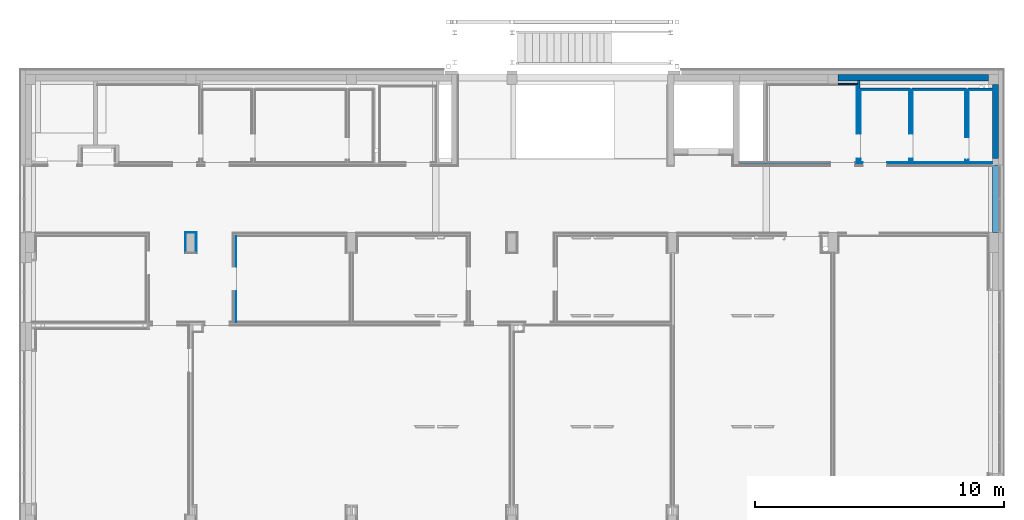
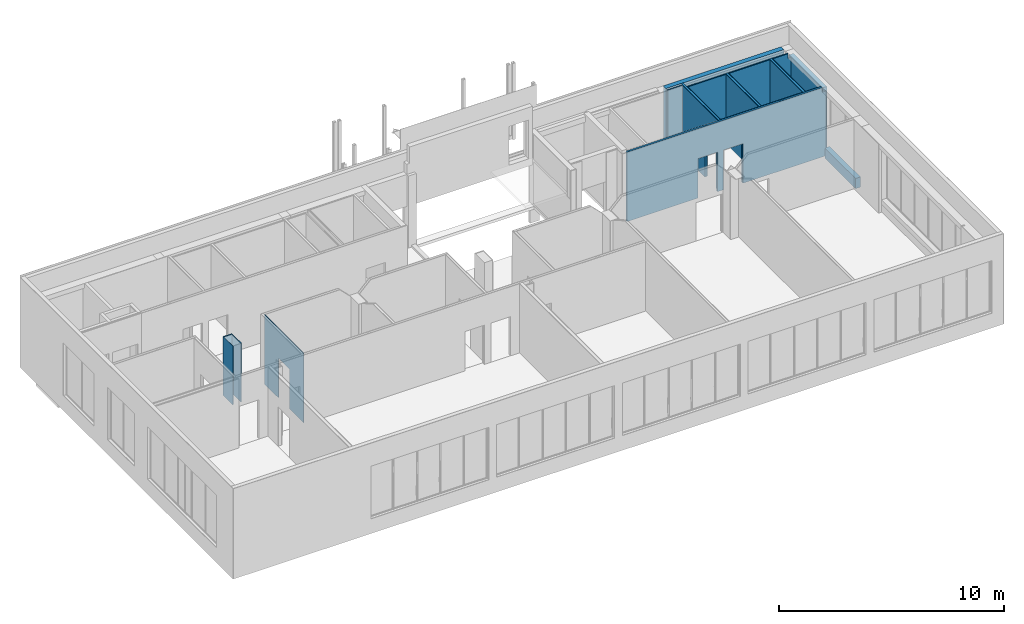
# One storey, part 26 of 29: 27 walls, 12 openings.
"""IFC2X3 building model written with IfcOpenShell, lengths in centimetres."""

from ifc_helpers import new_model, entity, si_unit, converted_unit, derived_unit, direction, frame, frame_2d, origin, origin_2d_with_axis, place, context, subcontext, project, spatial, polyline, rectangle, extrude, clip, bounded_halfspace, faceted_brep, material, layer, layer_set, layer_usage, type_object, element, save


model = new_model("IFC2X3")

# Units and contexts
model_context = context("Model", 3, precision=0.001, world=origin(), true_north=direction((6.12303176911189e-17, 1.0)))
body_context = subcontext(model_context, "Body", "Model", "MODEL_VIEW")
ifc_project = project(units=[si_unit("LENGTHUNIT", "METRE", prefix="CENTI"), si_unit("AREAUNIT", "SQUARE_METRE"), si_unit("VOLUMEUNIT", "CUBIC_METRE"), converted_unit("PLANEANGLEUNIT", "DEGREE", entity("IfcRatioMeasure", 0.0174532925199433), si_unit("PLANEANGLEUNIT", "RADIAN"), dimensions=[0, 0, 0, 0, 0, 0, 0]), si_unit("MASSUNIT", "GRAM", prefix="KILO"), derived_unit("MASSDENSITYUNIT", [(si_unit("MASSUNIT", "GRAM", prefix="KILO"), 1), (si_unit("LENGTHUNIT", "METRE"), -3)]), derived_unit("MOMENTOFINERTIAUNIT", [(si_unit("LENGTHUNIT", "METRE"), 4)]), si_unit("TIMEUNIT", "SECOND"), si_unit("FREQUENCYUNIT", "HERTZ"), si_unit("THERMODYNAMICTEMPERATUREUNIT", "DEGREE_CELSIUS"), derived_unit("THERMALTRANSMITTANCEUNIT", [(si_unit("MASSUNIT", "GRAM", prefix="KILO"), 1), (si_unit("THERMODYNAMICTEMPERATUREUNIT", "KELVIN"), -1), (si_unit("TIMEUNIT", "SECOND"), -3)]), derived_unit("VOLUMETRICFLOWRATEUNIT", [(si_unit("LENGTHUNIT", "METRE"), 3), (si_unit("TIMEUNIT", "SECOND"), -1)]), si_unit("ELECTRICCURRENTUNIT", "AMPERE"), si_unit("ELECTRICVOLTAGEUNIT", "VOLT"), si_unit("POWERUNIT", "WATT"), si_unit("FORCEUNIT", "NEWTON", prefix="KILO"), si_unit("ILLUMINANCEUNIT", "LUX"), si_unit("LUMINOUSFLUXUNIT", "LUMEN"), si_unit("LUMINOUSINTENSITYUNIT", "CANDELA"), derived_unit("USERDEFINED", [(si_unit("MASSUNIT", "GRAM", prefix="KILO"), -1), (si_unit("LENGTHUNIT", "METRE"), -2), (si_unit("TIMEUNIT", "SECOND"), 3), (si_unit("LUMINOUSFLUXUNIT", "LUMEN"), 1)]), derived_unit("LINEARVELOCITYUNIT", [(si_unit("LENGTHUNIT", "METRE"), 1), (si_unit("TIMEUNIT", "SECOND"), -1)]), si_unit("PRESSUREUNIT", "PASCAL"), derived_unit("USERDEFINED", [(si_unit("LENGTHUNIT", "METRE"), -2), (si_unit("MASSUNIT", "GRAM", prefix="KILO"), 1), (si_unit("TIMEUNIT", "SECOND"), -2)]), derived_unit("LINEARFORCEUNIT", [(si_unit("MASSUNIT", "GRAM", prefix="KILO"), 1), (si_unit("LENGTHUNIT", "METRE"), 1), (si_unit("TIMEUNIT", "SECOND"), -2), (si_unit("LENGTHUNIT", "METRE"), -1)]), derived_unit("PLANARFORCEUNIT", [(si_unit("MASSUNIT", "GRAM", prefix="KILO"), 1), (si_unit("LENGTHUNIT", "METRE"), 1), (si_unit("TIMEUNIT", "SECOND"), -2), (si_unit("LENGTHUNIT", "METRE"), -2)])], contexts=[model_context])

# Site, building, storey
site_placement = place(None, origin())
site = spatial("IfcSite", under=ifc_project, at=site_placement, Name="Default", CompositionType="ELEMENT")
building_placement = place(site_placement, origin())
building = spatial("IfcBuilding", under=site, at=building_placement, CompositionType="ELEMENT")
storey_placement = place(building_placement, frame((0.0, 0.0, 545.0)))
storey = spatial("IfcBuildingStorey", under=building, at=storey_placement, Name="Poziom 1K +5,45", CompositionType="ELEMENT", Elevation=544.999999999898)

# Walls
ifc_material_1 = material(Name="_Beton C30/37")
ifc_layer_1 = layer(ifc_material_1, 25.0)
ifc_layer_set_1 = layer_set([ifc_layer_1], Name="Ściana podstawowa:Ściana żelbetowa gr. 25cm")
ifc_layer_usage_1 = layer_usage(ifc_layer_set_1, "AXIS2", "POSITIVE", -12.5)
wall_type_1 = type_object("IfcWallType", Name="Ściana podstawowa:Ściana żelbetowa gr. 25cm", PredefinedType="STANDARD", material=ifc_layer_set_1)
wall_1_placement = place(storey_placement, frame((330.734891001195, 2092.62745061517, 0.0)))
element("IfcWallStandardCase", 1, at=wall_1_placement, inside=storey, type_object=wall_type_1, material=ifc_layer_usage_1, Name="Ściana podstawowa:Ściana żelbetowa gr. 25cm", ObjectType="Ściana podstawowa:Ściana żelbetowa gr. 25cm", context=body_context, shape_type="SweptSolid", body=[
    extrude(rectangle(XDim=605.000000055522, YDim=25.0000000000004, at=frame_2d((302.500000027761, 7.105427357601e-14), x_axis=(-1.0, 0.0))), origin(), (0.0, 0.0, 1.0), 390.000000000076),
])
ifc_material_2 = material(Name="Pustak ceramiczny, klasa 15")
ifc_layer_2 = layer(ifc_material_2, 25.0)
ifc_layer_set_2 = layer_set([ifc_layer_2], Name="Ściana podstawowa:Ściana murowana gr. 25cm")
ifc_layer_usage_2 = layer_usage(ifc_layer_set_2, "AXIS2", "POSITIVE", -12.5)
wall_type_2 = type_object("IfcWallType", Name="Ściana podstawowa:Ściana murowana gr. 25cm", PredefinedType="STANDARD", material=ifc_layer_set_2)
wall_2_placement = place(storey_placement, frame((963.234879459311, 2065.1274520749, 0.0), z_axis=(0.0, 0.0, 1.0), x_axis=(0.0, -1.0, 0.0)))
element("IfcWallStandardCase", 2, at=wall_2_placement, inside=storey, type_object=wall_type_2, material=ifc_layer_usage_2, Name="Ściana podstawowa:Ściana murowana gr. 25cm", ObjectType="Ściana podstawowa:Ściana murowana gr. 25cm", context=body_context, shape_type="SweptSolid", body=[
    extrude(rectangle(XDim=297.000000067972, YDim=24.9999999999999, at=frame_2d((148.500000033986, 0.0), x_axis=(-1.0, 0.0))), origin(), (0.0, 0.0, 1.0), 365.000000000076),
])
ifc_layer_usage_3 = layer_usage(ifc_layer_set_2, "AXIS2", "NEGATIVE", 12.5)
wall_3_placement = place(storey_placement, frame((963.234883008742, 1470.12745208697, 0.0), z_axis=(0.0, 0.0, 1.0), x_axis=(0.0, 1.0, 0.0)))
element("IfcWallStandardCase", 3, at=wall_3_placement, inside=storey, type_object=wall_type_2, material=ifc_layer_usage_3, Name="Ściana podstawowa:Ściana murowana gr. 25cm", ObjectType="Ściana podstawowa:Ściana murowana gr. 25cm", context=body_context, shape_type="SweptSolid", body=[
    extrude(rectangle(XDim=272.999999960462, YDim=24.9999999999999, at=frame_2d((136.499999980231, 0.0), x_axis=(-1.0, 0.0))), origin(), (0.0, 0.0, 1.0), 55.0000000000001),
])

# Wall, openings
ifc_material_3 = material(Name="Wełna skalna")
ifc_layer_3 = layer(ifc_material_3, 10.0)
ifc_layer_set_3 = layer_set([ifc_layer_3], Name="Ściana podstawowa:Ściana GK rdzeń gr. 10cm")
ifc_layer_usage_4 = layer_usage(ifc_layer_set_3, "AXIS2", "NEGATIVE", 5.0)
wall_type_3 = type_object("IfcWallType", Name="Ściana podstawowa:Ściana GK rdzeń gr. 10cm", PredefinedType="STANDARD", material=ifc_layer_set_3)
wall_4_placement = place(storey_placement, frame((-65.7649889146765, 1745.62745198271, 13.0)))
wall_4 = element("IfcWallStandardCase", 4, at=wall_4_placement, inside=storey, type_object=wall_type_3, material=ifc_layer_usage_4, Name="Ściana podstawowa:Ściana GK rdzeń gr. 10cm", ObjectType="Ściana podstawowa:Ściana GK rdzeń gr. 10cm", context=body_context, shape_type="Clipping", body=[
    clip(clip(clip(clip(extrude(rectangle(XDim=1021.49987997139, YDim=9.99999999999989, at=frame_2d((510.749939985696, 7.99360577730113e-15), x_axis=(-1.0, 0.0))), origin(), (0.0, 0.0, 1.0), 377.000000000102), bounded_halfspace(frame((1016.49986837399, -2.49999997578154, 0.0), z_axis=(-1.0, 0.0, 0.0), x_axis=(0.0, 0.0, -1.0)), True, frame((1016.49986837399, -2.49999997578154, 0.0), z_axis=(-1.0, 0.0, 0.0), x_axis=(0.0, 0.0, -1.0)), polyline([(0.0, 0.0), (-352.0, 0.0), (-352.0, -7.49999997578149), (0.0, -7.49999997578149), (0.0, 0.0)]))), bounded_halfspace(frame((1021.49987997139, -2.49999997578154, 0.0), z_axis=(0.0, -1.0, 0.0), x_axis=(0.0, 0.0, -1.0)), True, frame((1021.49987997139, -2.49999997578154, 0.0), z_axis=(0.0, -1.0, 0.0), x_axis=(0.0, 0.0, -1.0)), polyline([(0.0, 0.0), (-352.0, 0.0), (-352.0, -5.00001159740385), (0.0, -5.00001159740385), (0.0, 0.0)]))), bounded_halfspace(frame((1001.49987997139, 5.0, 352.0), z_axis=(0.0, 0.0, -1.0), x_axis=(0.0, -1.0, 0.0)), True, frame((1001.49987997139, 5.0, 352.0), z_axis=(0.0, 0.0, -1.0), x_axis=(0.0, -1.0, 0.0)), polyline([(0.0, 0.0), (0.0, -14.9999884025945), (7.49999997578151, -14.9999884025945), (7.49999997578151, -20.0), (10.0, -20.0), (10.0, 0.0), (0.0, 0.0)]))), bounded_halfspace(frame((1001.49987997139, -5.0, 352.0), z_axis=(-1.0, 0.0, 0.0), x_axis=(0.0, -1.0, 0.0)), True, frame((1001.49987997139, -5.0, 352.0), z_axis=(-1.0, 0.0, 0.0), x_axis=(0.0, -1.0, 0.0)), polyline([(0.0, 0.0), (0.0, 25.0), (-10.0, 25.0), (-10.0, 0.0), (0.0, 0.0)]))),
])
opening_1_placement = place(wall_4_placement, origin())
element("IfcOpeningElement", 5, at=opening_1_placement, cuts=wall_4, Name="Ściana podstawowa:Ściana GK rdzeń gr. 10cm", ObjectType="Opening", context=body_context, shape_type="SweptSolid", body=[
    extrude(rectangle(XDim=215.0, YDim=99.9999999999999, at=frame_2d((0.0, 2.8421709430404e-14), x_axis=(1.0, 0.0))), frame((414.999868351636, -147.4, 107.5), z_axis=(0.0, 1.0, 0.0), x_axis=(0.0, 0.0, -1.0)), (0.0, 0.0, 1.0), 304.8),
])
opening_2_placement = place(wall_4_placement, origin())
element("IfcOpeningElement", 6, at=opening_2_placement, cuts=wall_4, Name="Ściana podstawowa:Ściana GK rdzeń gr. 10cm", ObjectType="Opening", context=body_context, shape_type="SweptSolid", body=[
    extrude(rectangle(XDim=215.0, YDim=99.9999999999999, at=frame_2d((0.0, 8.17124146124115e-14), x_axis=(1.0, 0.0))), frame((544.999868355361, -147.4, 107.5), z_axis=(0.0, 1.0, 0.0), x_axis=(0.0, 0.0, -1.0)), (0.0, 0.0, 1.0), 304.8),
])

# Wall, opening
ifc_layer_usage_5 = layer_usage(ifc_layer_set_3, "AXIS2", "POSITIVE", -5.0)
wall_5_placement = place(storey_placement, frame((849.234879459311, 1750.62745198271, 13.0), z_axis=(0.0, 0.0, 1.0), x_axis=(0.0, 1.0, 0.0)))
wall_5 = element("IfcWallStandardCase", 7, at=wall_5_placement, inside=storey, type_object=wall_type_3, material=ifc_layer_usage_5, Name="Ściana podstawowa:Ściana GK rdzeń gr. 10cm", ObjectType="Ściana podstawowa:Ściana GK rdzeń gr. 10cm", context=body_context, shape_type="SweptSolid", body=[
    extrude(rectangle(XDim=299.500000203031, YDim=9.99999999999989, at=frame_2d((149.750000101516, 0.0), x_axis=(-1.0, 0.0))), origin(), (0.0, 0.0, 1.0), 377.000000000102),
])
opening_3_placement = place(wall_5_placement, origin())
element("IfcOpeningElement", 8, at=opening_3_placement, cuts=wall_5, Name="Ściana podstawowa:Ściana GK rdzeń gr. 10cm", ObjectType="Opening", context=body_context, shape_type="SweptSolid", body=[
    extrude(rectangle(XDim=215.0, YDim=89.9999999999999, at=origin_2d_with_axis()), frame((57.5000001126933, -147.4, 107.5), z_axis=(0.0, 1.0, 0.0), x_axis=(0.0, 0.0, -1.0)), (0.0, 0.0, 1.0), 304.8),
])

ifc_layer_usage_6 = layer_usage(ifc_layer_set_3, "AXIS2", "NEGATIVE", 5.0)
wall_6_placement = place(storey_placement, frame((624.234879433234, 1750.62745198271, 13.0), z_axis=(0.0, 0.0, 1.0), x_axis=(0.0, 1.0, 0.0)))
wall_6 = element("IfcWallStandardCase", 9, at=wall_6_placement, inside=storey, type_object=wall_type_3, material=ifc_layer_usage_6, Name="Ściana podstawowa:Ściana GK rdzeń gr. 10cm", ObjectType="Ściana podstawowa:Ściana GK rdzeń gr. 10cm", context=body_context, shape_type="SweptSolid", body=[
    extrude(rectangle(XDim=299.500000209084, YDim=9.99999999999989, at=frame_2d((149.750000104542, 0.0), x_axis=(-1.0, 0.0))), origin(), (0.0, 0.0, 1.0), 377.000000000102),
])
opening_4_placement = place(wall_6_placement, origin())
element("IfcOpeningElement", 10, at=opening_4_placement, cuts=wall_6, Name="Ściana podstawowa:Ściana GK rdzeń gr. 10cm", ObjectType="Opening", context=body_context, shape_type="SweptSolid", body=[
    extrude(rectangle(XDim=215.0, YDim=100.0, at=frame_2d((1.10134124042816e-13, 0.0), x_axis=(0.0, 1.0))), frame((67.5000000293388, -157.4, 107.5), z_axis=(0.0, 1.0, 0.0), x_axis=(1.0, 0.0, 0.0)), (0.0, 0.0, 1.0), 304.8),
])

ifc_layer_usage_7 = layer_usage(ifc_layer_set_3, "AXIS2", "POSITIVE", -5.0)
wall_7_placement = place(storey_placement, frame((414.234879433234, 2081.127452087, 13.0), z_axis=(0.0, 0.0, 1.0), x_axis=(0.0, -1.0, 0.0)))
wall_7 = element("IfcWallStandardCase", 11, at=wall_7_placement, inside=storey, type_object=wall_type_3, material=ifc_layer_usage_7, Name="Ściana podstawowa:Ściana GK rdzeń gr. 10cm", ObjectType="Ściana podstawowa:Ściana GK rdzeń gr. 10cm", context=body_context, shape_type="SweptSolid", body=[
    extrude(rectangle(XDim=330.500000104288, YDim=10.0, at=frame_2d((165.250000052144, 0.0), x_axis=(-1.0, 0.0))), origin(), (0.0, 0.0, 1.0), 377.000000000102),
])
opening_5_placement = place(wall_7_placement, origin())
element("IfcOpeningElement", 12, at=opening_5_placement, cuts=wall_7, Name="Ściana podstawowa:Ściana GK rdzeń gr. 10cm", ObjectType="Opening", context=body_context, shape_type="SweptSolid", body=[
    extrude(rectangle(XDim=215.0, YDim=100.0, at=frame_2d((0.0, 1.10134124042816e-13), x_axis=(1.0, 0.0))), frame((263.0, -147.4, 107.5), z_axis=(0.0, 1.0, 0.0), x_axis=(0.0, 0.0, -1.0)), (0.0, 0.0, 1.0), 304.8),
])

# Walls
ifc_layer_4 = layer(ifc_material_3, 5.0)
ifc_layer_set_4 = layer_set([ifc_layer_4], Name="Ściana podstawowa:Ściana GK rdzeń gr. 5cm")
ifc_layer_usage_8 = layer_usage(ifc_layer_set_4, "AXIS2", "NEGATIVE", 2.5)
wall_type_4 = type_object("IfcWallType", Name="Ściana podstawowa:Ściana GK rdzeń gr. 5cm", PredefinedType="STANDARD", material=ifc_layer_set_4)
wall_8_placement = place(storey_placement, frame((419.234879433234, 2047.6274521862, 13.0)))
element("IfcWallStandardCase", 13, at=wall_8_placement, inside=storey, type_object=wall_type_4, material=ifc_layer_usage_8, Name="Ściana podstawowa:Ściana GK rdzeń gr. 5cm", ObjectType="Ściana podstawowa:Ściana GK rdzeń gr. 5cm", context=body_context, shape_type="SweptSolid", body=[
    extrude(rectangle(XDim=200.000000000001, YDim=4.99999999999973, at=frame_2d((100.0, 5.55111512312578e-15), x_axis=(-1.0, 0.0))), origin(), (0.0, 0.0, 1.0), 377.000000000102),
])
ifc_layer_usage_9 = layer_usage(ifc_layer_set_4, "AXIS2", "NEGATIVE", 2.5)
wall_9_placement = place(storey_placement, frame((629.234879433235, 2047.62745219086, 13.0)))
element("IfcWallStandardCase", 14, at=wall_9_placement, inside=storey, type_object=wall_type_4, material=ifc_layer_usage_9, Name="Ściana podstawowa:Ściana GK rdzeń gr. 5cm", ObjectType="Ściana podstawowa:Ściana GK rdzeń gr. 5cm", context=body_context, shape_type="SweptSolid", body=[
    extrude(rectangle(XDim=215.000000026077, YDim=4.99999999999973, at=frame_2d((107.500000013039, 1.04360964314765e-14), x_axis=(-1.0, 0.0))), origin(), (0.0, 0.0, 1.0), 377.000000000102),
])
ifc_layer_usage_10 = layer_usage(ifc_layer_set_4, "AXIS2", "NEGATIVE", 2.5)
wall_10_placement = place(storey_placement, frame((854.234879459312, 2047.62745218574, 13.0)))
element("IfcWallStandardCase", 15, at=wall_10_placement, inside=storey, type_object=wall_type_4, material=ifc_layer_usage_10, Name="Ściana podstawowa:Ściana GK rdzeń gr. 5cm", ObjectType="Ściana podstawowa:Ściana GK rdzeń gr. 5cm", context=body_context, shape_type="Clipping", body=[
    clip(clip(extrude(rectangle(XDim=96.4999999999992, YDim=4.99999999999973, at=frame_2d((48.2499999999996, -5.32907051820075e-15), x_axis=(-1.0, 0.0))), origin(), (0.0, 0.0, 1.0), 377.000000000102), bounded_halfspace(frame((81.5000115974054, 2.49999999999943, 352.0), z_axis=(0.0, 0.0, -1.0), x_axis=(0.0, -1.0, 0.0)), True, frame((81.5000115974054, 2.49999999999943, 352.0), z_axis=(0.0, 0.0, -1.0), x_axis=(0.0, -1.0, 0.0)), polyline([(0.0, 0.0), (0.0, -14.9999884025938), (5.0, -14.9999884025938), (5.0, 0.0), (0.0, 0.0)]))), bounded_halfspace(frame((81.5000115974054, -2.50000000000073, 352.0), z_axis=(-1.0, 0.0, 0.0), x_axis=(0.0, -1.0, 0.0)), True, frame((81.5000115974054, -2.50000000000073, 352.0), z_axis=(-1.0, 0.0, 0.0), x_axis=(0.0, -1.0, 0.0)), polyline([(0.0, 0.0), (0.0, 25.0), (-5.0, 25.0), (-5.0, 0.0), (0.0, 0.0)]))),
])
ifc_layer_usage_11 = layer_usage(ifc_layer_set_4, "AXIS2", "NEGATIVE", 2.5)
wall_11_placement = place(storey_placement, frame((330.734891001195, 2067.6274520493, 13.0)))
element("IfcWallStandardCase", 16, at=wall_11_placement, inside=storey, type_object=wall_type_4, material=ifc_layer_usage_11, Name="Ściana podstawowa:Ściana GK rdzeń gr. 5cm", ObjectType="Ściana podstawowa:Ściana GK rdzeń gr. 5cm", context=body_context, shape_type="SweptSolid", body=[
    extrude(rectangle(XDim=78.4999884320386, YDim=4.99999999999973, at=frame_2d((39.2499942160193, 0.0), x_axis=(-1.0, 0.0))), origin(), (0.0, 0.0, 1.0), 377.000000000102),
])

# Wall, opening
ifc_material_4 = material(Name="Tynk gipsowy")
ifc_layer_5 = layer(ifc_material_4, 2.5)
ifc_layer_set_5 = layer_set([ifc_layer_5], Name="Ściana podstawowa:Ściana GK wykonczenie gr. 2,5cm")
ifc_layer_usage_12 = layer_usage(ifc_layer_set_5, "AXIS2", "NEGATIVE", 1.25)
wall_type_5 = type_object("IfcWallType", Name="Ściana podstawowa:Ściana GK wykonczenie gr. 2,5cm", PredefinedType="STANDARD", material=ifc_layer_set_5)
wall_12_placement = place(storey_placement, frame((407.984879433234, 2065.1274520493, 13.0), z_axis=(0.0, 0.0, 1.0), x_axis=(0.0, -1.0, 0.0)))
wall_12 = element("IfcWallStandardCase", 17, at=wall_12_placement, inside=storey, type_object=wall_type_5, material=ifc_layer_usage_12, Name="Ściana podstawowa:Ściana GK wykonczenie gr. 2,5cm", ObjectType="Ściana podstawowa:Ściana GK wykonczenie gr. 2,5cm", context=body_context, shape_type="SweptSolid", body=[
    extrude(rectangle(XDim=314.50000006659, YDim=2.49999999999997, at=frame_2d((157.250000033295, 0.0), x_axis=(-1.0, 0.0))), origin(), (0.0, 0.0, 1.0), 377.000000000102),
])
opening_6_placement = place(wall_12_placement, origin())
element("IfcOpeningElement", 18, at=opening_6_placement, cuts=wall_12, Name="Ściana podstawowa:Ściana GK wykonczenie gr. 2,5cm", ObjectType="Opening", context=body_context, shape_type="SweptSolid", body=[
    extrude(rectangle(XDim=215.0, YDim=100.0, at=frame_2d((0.0, 1.10134124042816e-13), x_axis=(1.0, 0.0))), frame((247.0, -141.15, 107.5), z_axis=(0.0, 1.0, 0.0), x_axis=(0.0, 0.0, -1.0)), (0.0, 0.0, 1.0), 304.8),
])

ifc_layer_usage_13 = layer_usage(ifc_layer_set_5, "AXIS2", "NEGATIVE", 1.25)
wall_13_placement = place(storey_placement, frame((420.484879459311, 2042.62745219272, 13.0), z_axis=(0.0, 0.0, 1.0), x_axis=(0.0, -1.0, 0.0)))
wall_13 = element("IfcWallStandardCase", 19, at=wall_13_placement, inside=storey, type_object=wall_type_5, material=ifc_layer_usage_13, Name="Ściana podstawowa:Ściana GK wykonczenie gr. 2,5cm", ObjectType="Ściana podstawowa:Ściana GK wykonczenie gr. 2,5cm", context=body_context, shape_type="SweptSolid", body=[
    extrude(rectangle(XDim=289.500000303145, YDim=2.49999999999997, at=frame_2d((144.750000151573, 1.11022302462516e-16), x_axis=(-1.0, 0.0))), origin(), (0.0, 0.0, 1.0), 377.000000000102),
])
opening_7_placement = place(wall_13_placement, origin())
element("IfcOpeningElement", 20, at=opening_7_placement, cuts=wall_13, Name="Ściana podstawowa:Ściana GK wykonczenie gr. 2,5cm", ObjectType="Opening", context=body_context, shape_type="SweptSolid", body=[
    extrude(rectangle(XDim=215.0, YDim=100.0, at=frame_2d((0.0, 1.10134124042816e-13), x_axis=(1.0, 0.0))), frame((224.500000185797, -153.650000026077, 107.5), z_axis=(0.0, 1.0, 0.0), x_axis=(0.0, 0.0, -1.0)), (0.0, 0.0, 1.0), 304.8),
])

ifc_layer_usage_14 = layer_usage(ifc_layer_set_5, "AXIS2", "NEGATIVE", 1.25)
wall_14_placement = place(storey_placement, frame((419.234879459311, 1751.87745188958, 13.0)))
wall_14 = element("IfcWallStandardCase", 21, at=wall_14_placement, inside=storey, type_object=wall_type_5, material=ifc_layer_usage_14, Name="Ściana podstawowa:Ściana GK wykonczenie gr. 2,5cm", ObjectType="Ściana podstawowa:Ściana GK wykonczenie gr. 2,5cm", context=body_context, shape_type="SweptSolid", body=[
    extrude(rectangle(XDim=197.499999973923, YDim=2.49999999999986, at=frame_2d((98.7499999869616, 0.0), x_axis=(-1.0, 0.0))), origin(), (0.0, 0.0, 1.0), 377.000000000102),
])
opening_8_placement = place(wall_14_placement, origin())
element("IfcOpeningElement", 22, at=opening_8_placement, cuts=wall_14, Name="Ściana podstawowa:Ściana GK wykonczenie gr. 2,5cm", ObjectType="Opening", context=body_context, shape_type="SweptSolid", body=[
    extrude(rectangle(XDim=215.0, YDim=99.9999999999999, at=frame_2d((0.0, 8.17124146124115e-14), x_axis=(1.0, 0.0))), frame((60.0, -153.649999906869, 107.5), z_axis=(0.0, 1.0, 0.0), x_axis=(0.0, 0.0, -1.0)), (0.0, 0.0, 1.0), 304.8),
])

ifc_layer_usage_15 = layer_usage(ifc_layer_set_5, "AXIS2", "NEGATIVE", 1.25)
wall_15_placement = place(storey_placement, frame((617.984879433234, 1753.12745188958, 13.0), z_axis=(0.0, 0.0, 1.0), x_axis=(0.0, 1.0, 0.0)))
wall_15 = element("IfcWallStandardCase", 23, at=wall_15_placement, inside=storey, type_object=wall_type_5, material=ifc_layer_usage_15, Name="Ściana podstawowa:Ściana GK wykonczenie gr. 2,5cm", ObjectType="Ściana podstawowa:Ściana GK wykonczenie gr. 2,5cm", context=body_context, shape_type="SweptSolid", body=[
    extrude(rectangle(XDim=292.000000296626, YDim=2.50000000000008, at=frame_2d((146.000000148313, 0.0), x_axis=(-1.0, 0.0))), origin(), (0.0, 0.0, 1.0), 377.000000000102),
])
opening_9_placement = place(wall_15_placement, origin())
element("IfcOpeningElement", 24, at=opening_9_placement, cuts=wall_15, Name="Ściana podstawowa:Ściana GK wykonczenie gr. 2,5cm", ObjectType="Opening", context=body_context, shape_type="SweptSolid", body=[
    extrude(rectangle(XDim=215.0, YDim=100.0, at=frame_2d((1.10134124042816e-13, 0.0), x_axis=(0.0, 1.0))), frame((65.0, -163.65, 107.5), z_axis=(0.0, 1.0, 0.0), x_axis=(1.0, 0.0, 0.0)), (0.0, 0.0, 1.0), 304.8),
])

# Wall
ifc_layer_usage_16 = layer_usage(ifc_layer_set_5, "AXIS2", "NEGATIVE", 1.25)
wall_16_placement = place(storey_placement, frame((616.734879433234, 2043.87745219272, 13.0), z_axis=(0.0, 0.0, 1.0), x_axis=(-1.0, 0.0, 0.0)))
element("IfcWallStandardCase", 25, at=wall_16_placement, inside=storey, type_object=wall_type_5, material=ifc_layer_usage_16, Name="Ściana podstawowa:Ściana GK wykonczenie gr. 2,5cm", ObjectType="Ściana podstawowa:Ściana GK wykonczenie gr. 2,5cm", context=body_context, shape_type="SweptSolid", body=[
    extrude(rectangle(XDim=197.500000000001, YDim=2.5000000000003, at=frame_2d((98.7500000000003, 0.0), x_axis=(-1.0, 0.0))), origin(), (0.0, 0.0, 1.0), 377.000000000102),
])

# Wall, opening
ifc_layer_usage_17 = layer_usage(ifc_layer_set_5, "AXIS2", "NEGATIVE", 1.25)
wall_17_placement = place(storey_placement, frame((630.484879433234, 1750.62745198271, 13.0), z_axis=(0.0, 0.0, 1.0), x_axis=(0.0, 1.0, 0.0)))
wall_17 = element("IfcWallStandardCase", 26, at=wall_17_placement, inside=storey, type_object=wall_type_5, material=ifc_layer_usage_17, Name="Ściana podstawowa:Ściana GK wykonczenie gr. 2,5cm", ObjectType="Ściana podstawowa:Ściana GK wykonczenie gr. 2,5cm", context=body_context, shape_type="SweptSolid", body=[
    extrude(rectangle(XDim=294.500000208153, YDim=2.50000000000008, at=frame_2d((147.250000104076, 0.0), x_axis=(-1.0, 0.0))), origin(), (0.0, 0.0, 1.0), 377.000000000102),
])
opening_10_placement = place(wall_17_placement, origin())
element("IfcOpeningElement", 27, at=opening_10_placement, cuts=wall_17, Name="Ściana podstawowa:Ściana GK wykonczenie gr. 2,5cm", ObjectType="Opening", context=body_context, shape_type="SweptSolid", body=[
    extrude(rectangle(XDim=215.0, YDim=100.0, at=frame_2d((1.10134124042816e-13, 0.0), x_axis=(0.0, 1.0))), frame((67.5000000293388, -151.15, 107.5), z_axis=(0.0, 1.0, 0.0), x_axis=(1.0, 0.0, 0.0)), (0.0, 0.0, 1.0), 304.8),
])

# Wall
ifc_layer_usage_18 = layer_usage(ifc_layer_set_5, "AXIS2", "NEGATIVE", 1.25)
wall_18_placement = place(storey_placement, frame((629.234879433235, 2043.87745219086, 13.0)))
element("IfcWallStandardCase", 28, at=wall_18_placement, inside=storey, type_object=wall_type_5, material=ifc_layer_usage_18, Name="Ściana podstawowa:Ściana GK wykonczenie gr. 2,5cm", ObjectType="Ściana podstawowa:Ściana GK wykonczenie gr. 2,5cm", context=body_context, shape_type="SweptSolid", body=[
    extrude(rectangle(XDim=215.000000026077, YDim=2.5000000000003, at=frame_2d((107.500000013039, 0.0), x_axis=(-1.0, 0.0))), origin(), (0.0, 0.0, 1.0), 377.000000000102),
])

# Wall, opening
ifc_layer_usage_19 = layer_usage(ifc_layer_set_5, "AXIS2", "NEGATIVE", 1.25)
wall_19_placement = place(storey_placement, frame((842.984879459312, 2042.62745219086, 13.0), z_axis=(0.0, 0.0, 1.0), x_axis=(0.0, -1.0, 0.0)))
wall_19 = element("IfcWallStandardCase", 29, at=wall_19_placement, inside=storey, type_object=wall_type_5, material=ifc_layer_usage_19, Name="Ściana podstawowa:Ściana GK wykonczenie gr. 2,5cm", ObjectType="Ściana podstawowa:Ściana GK wykonczenie gr. 2,5cm", context=body_context, shape_type="SweptSolid", body=[
    extrude(rectangle(XDim=292.000000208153, YDim=2.50000000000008, at=frame_2d((146.000000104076, -1.77635683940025e-15), x_axis=(-1.0, 0.0))), origin(), (0.0, 0.0, 1.0), 377.000000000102),
])
opening_11_placement = place(wall_19_placement, origin())
element("IfcOpeningElement", 30, at=opening_11_placement, cuts=wall_19, Name="Ściana podstawowa:Ściana GK wykonczenie gr. 2,5cm", ObjectType="Opening", context=body_context, shape_type="SweptSolid", body=[
    extrude(rectangle(XDim=215.0, YDim=89.9999999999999, at=frame_2d((0.0, 0.0), x_axis=(0.0, 1.0))), frame((234.50000009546, -151.15, 107.5), z_axis=(0.0, 1.0, 0.0), x_axis=(1.0, 0.0, 0.0)), (0.0, 0.0, 1.0), 304.8),
])

# Wall
ifc_layer_usage_20 = layer_usage(ifc_layer_set_5, "AXIS2", "NEGATIVE", 1.25)
wall_20_placement = place(storey_placement, frame((841.734879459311, 1751.87745198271, 13.0), z_axis=(0.0, 0.0, 1.0), x_axis=(-1.0, 0.0, 0.0)))
element("IfcWallStandardCase", 31, at=wall_20_placement, inside=storey, type_object=wall_type_5, material=ifc_layer_usage_20, Name="Ściana podstawowa:Ściana GK wykonczenie gr. 2,5cm", ObjectType="Ściana podstawowa:Ściana GK wykonczenie gr. 2,5cm", context=body_context, shape_type="SweptSolid", body=[
    extrude(rectangle(XDim=210.000000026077, YDim=2.49999999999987, at=frame_2d((105.000000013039, -3.77475828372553e-15), x_axis=(-1.0, 0.0))), origin(), (0.0, 0.0, 1.0), 377.000000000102),
])

# Wall, opening
ifc_layer_usage_21 = layer_usage(ifc_layer_set_5, "AXIS2", "NEGATIVE", 1.25)
wall_21_placement = place(storey_placement, frame((855.484879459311, 1750.62745198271, 13.0), z_axis=(0.0, 0.0, 1.0), x_axis=(0.0, 1.0, 0.0)))
wall_21 = element("IfcWallStandardCase", 32, at=wall_21_placement, inside=storey, type_object=wall_type_5, material=ifc_layer_usage_21, Name="Ściana podstawowa:Ściana GK wykonczenie gr. 2,5cm", ObjectType="Ściana podstawowa:Ściana GK wykonczenie gr. 2,5cm", context=body_context, shape_type="SweptSolid", body=[
    extrude(rectangle(XDim=294.500000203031, YDim=2.50000000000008, at=frame_2d((147.250000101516, 0.0), x_axis=(-1.0, 0.0))), origin(), (0.0, 0.0, 1.0), 377.000000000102),
])
opening_12_placement = place(wall_21_placement, origin())
element("IfcOpeningElement", 33, at=opening_12_placement, cuts=wall_21, Name="Ściana podstawowa:Ściana GK wykonczenie gr. 2,5cm", ObjectType="Opening", context=body_context, shape_type="SweptSolid", body=[
    extrude(rectangle(XDim=215.0, YDim=89.9999999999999, at=origin_2d_with_axis()), frame((57.5000001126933, -141.15, 107.5), z_axis=(0.0, 1.0, 0.0), x_axis=(0.0, 0.0, -1.0)), (0.0, 0.0, 1.0), 304.8),
])

# Walls
ifc_layer_usage_22 = layer_usage(ifc_layer_set_5, "AXIS2", "NEGATIVE", 1.25)
wall_22_placement = place(storey_placement, frame((856.734879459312, 2043.87745218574, 13.0)))
element("IfcWallStandardCase", 34, at=wall_22_placement, inside=storey, type_object=wall_type_5, material=ifc_layer_usage_22, Name="Ściana podstawowa:Ściana GK wykonczenie gr. 2,5cm", ObjectType="Ściana podstawowa:Ściana GK wykonczenie gr. 2,5cm", context=body_context, shape_type="Clipping", body=[
    clip(clip(extrude(rectangle(XDim=93.9999999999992, YDim=2.5000000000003, at=frame_2d((46.9999999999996, -5.6621374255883e-15), x_axis=(-1.0, 0.0))), origin(), (0.0, 0.0, 1.0), 377.000000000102), bounded_halfspace(frame((79.0000115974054, 1.25000000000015, 352.0), z_axis=(0.0, 0.0, -1.0), x_axis=(0.0, -1.0, 0.0)), True, frame((79.0000115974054, 1.25000000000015, 352.0), z_axis=(0.0, 0.0, -1.0), x_axis=(0.0, -1.0, 0.0)), polyline([(0.0, 0.0), (0.0, -14.9999884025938), (2.4999999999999, -14.9999884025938), (2.49999999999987, 0.0), (0.0, 0.0)]))), bounded_halfspace(frame((79.0000115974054, -1.24999999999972, 352.0), z_axis=(-1.0, 0.0, 0.0), x_axis=(0.0, -1.0, 0.0)), True, frame((79.0000115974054, -1.24999999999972, 352.0), z_axis=(-1.0, 0.0, 0.0), x_axis=(0.0, -1.0, 0.0)), polyline([(0.0, 0.0), (0.0, 25.0), (-2.49999999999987, 25.0), (-2.49999999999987, 0.0), (0.0, 0.0)]))),
])
ifc_layer_usage_23 = layer_usage(ifc_layer_set_5, "AXIS2", "NEGATIVE", 1.25)
wall_23_placement = place(storey_placement, frame((856.734879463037, 1751.87745209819, 13.0)))
element("IfcWallStandardCase", 35, at=wall_23_placement, inside=storey, type_object=wall_type_5, material=ifc_layer_usage_23, Name="Ściana podstawowa:Ściana GK wykonczenie gr. 2,5cm", ObjectType="Ściana podstawowa:Ściana GK wykonczenie gr. 2,5cm", context=body_context, shape_type="Clipping", body=[
    clip(clip(extrude(rectangle(XDim=93.9999999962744, YDim=2.49999999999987, at=frame_2d((46.9999999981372, -5.44009282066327e-15), x_axis=(-1.0, 0.0))), origin(), (0.0, 0.0, 1.0), 377.000000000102), bounded_halfspace(frame((79.0000115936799, 1.24999999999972, 352.0), z_axis=(0.0, 0.0, -1.0), x_axis=(0.0, -1.0, 0.0)), True, frame((79.0000115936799, 1.24999999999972, 352.0), z_axis=(0.0, 0.0, -1.0), x_axis=(0.0, -1.0, 0.0)), polyline([(0.0, 0.0), (0.0, -14.9999884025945), (2.49999999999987, -14.9999884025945), (2.50000000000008, 0.0), (0.0, 0.0)]))), bounded_halfspace(frame((79.0000115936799, -1.25000000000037, 352.0), z_axis=(-1.0, 0.0, 0.0), x_axis=(0.0, -1.0, 0.0)), True, frame((79.0000115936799, -1.25000000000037, 352.0), z_axis=(-1.0, 0.0, 0.0), x_axis=(0.0, -1.0, 0.0)), polyline([(0.0, 0.0), (0.0, 25.0), (-2.50000000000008, 25.0), (-2.50000000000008, 0.0), (0.0, 0.0)]))),
])
wall_24_placement = place(storey_placement, frame((-2088.0151152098, 1455.12745210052, 13.0), z_axis=(0.0, 0.0, 1.0), x_axis=(0.0, -1.0, 0.0)))
element("IfcWall", 36, at=wall_24_placement, inside=storey, type_object=wall_type_5, Name="Ściana podstawowa:Ściana GK wykonczenie gr. 2,5cm", ObjectType="Ściana podstawowa:Ściana GK wykonczenie gr. 2,5cm", context=body_context, shape_type="Brep", body=[
    faceted_brep([(345.499999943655, -1.24999999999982, 377.0), (0.0, -1.24999999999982, 377.0), (0.0, -1.24999999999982, 0.0), (121.0, -1.24999999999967, 0.0), (121.0, -1.24999999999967, 215.0), (221.0, -1.24999999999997, 215.0), (221.0, -1.24999999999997, 0.0), (345.499999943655, -1.24999999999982, 0.0), (0.0, 1.25000000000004, 377.0), (345.499999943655, 1.25000000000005, 377.0), (345.499999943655, 1.25000000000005, 0.0), (221.0, 1.24999999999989, 0.0), (221.0, 1.24999999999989, 215.0), (121.0, 1.2500000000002, 215.0), (121.0, 1.2500000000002, 0.0), (0.0, 1.25000000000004, 0.0)], [[[0, 1, 2, 3, 4, 5, 6, 7]], [[8, 9, 10, 11, 12, 13, 14, 15]], [[9, 0, 7, 10]], [[1, 0, 9, 8]], [[1, 8, 15, 2]], [[6, 5, 12, 11]], [[4, 3, 14, 13]], [[5, 4, 13, 12]], [[3, 2, 15, 14]], [[7, 6, 11, 10]]]),
])
ifc_layer_6 = layer(ifc_material_4, 2.5)
ifc_layer_set_6 = layer_set([ifc_layer_6], Name="Ściana podstawowa:Tynk wykończenie gr. 2,5cm")
wall_type_6 = type_object("IfcWallType", Name="Ściana podstawowa:Tynk wykończenie gr. 2,5cm", PredefinedType="STANDARD", material=ifc_layer_set_6)
wall_25_placement = place(storey_placement, frame((-2290.51512060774, 1387.62745210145, 13.0), z_axis=(0.0, 0.0, 1.0), x_axis=(0.0, 1.0, 0.0)))
element("IfcWall", 37, at=wall_25_placement, inside=storey, type_object=wall_type_6, Name="Ściana podstawowa:Tynk wykończenie gr. 2,5cm", ObjectType="Ściana podstawowa:Tynk wykończenie gr. 2,5cm", context=body_context, shape_type="Brep", body=[
    faceted_brep([(0.0, -1.24999999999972, 0.0), (2.50000000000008, -1.24999999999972, 0.0), (82.4999999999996, -1.24999999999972, 0.0), (85.0, -1.24999999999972, 0.0), (85.0, -1.24999999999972, 320.0), (82.4999999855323, -1.24999999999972, 317.00001399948), (2.49999998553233, -1.24999999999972, 317.0), (0.0, -1.24999999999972, 318.42857142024), (85.0, 1.25000000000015, 0.0), (0.0, 1.25000000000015, 0.0), (0.0, 1.25000000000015, 319.500013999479), (84.5833449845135, 1.25000000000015, 319.50001399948), (85.0, 1.25000000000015, 320.0), (0.0, 0.178557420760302, 318.42857142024), (82.4999999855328, -1.24999999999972, 317.0), (82.4999999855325, -1.2500139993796, 317.0), (2.49999998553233, -1.24999999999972, 317.00001399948), (2.49999998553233, -1.2500139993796, 317.0)], [[[0, 1, 2, 3, 4, 5, 6, 7]], [[8, 9, 10, 11, 12]], [[3, 2, 1, 0, 9, 8]], [[3, 8, 12, 4]], [[9, 0, 7, 13, 10]], [[11, 14, 4, 12]], [[15, 11, 10, 13, 16]], [[17, 13, 7]]]),
])
wall_26_placement = place(storey_placement, frame((-2289.26512060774, 1471.37745210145, 13.0)))
element("IfcWall", 38, at=wall_26_placement, inside=storey, type_object=wall_type_6, Name="Ściana podstawowa:Tynk wykończenie gr. 2,5cm", ObjectType="Ściana podstawowa:Tynk wykończenie gr. 2,5cm", context=body_context, shape_type="Brep", body=[
    faceted_brep([(0.0, -1.25000000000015, 0.0), (40.0, -1.25000000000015, 0.0), (42.5000000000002, -1.25000000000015, 0.0), (42.5000000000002, -1.25000000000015, 319.49998600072), (40.0000139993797, -1.25000000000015, 317.0), (0.0, -1.25000000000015, 317.0), (42.5000000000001, 1.24999999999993, 0.0), (0.0, 1.24999999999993, 0.0), (0.0, 1.24999999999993, 320.0), (42.5000000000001, 1.24999999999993, 320.0), (42.5000000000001, 0.833321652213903, 319.49998600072)], [[[0, 1, 2, 3, 4, 5]], [[6, 7, 8, 9]], [[2, 1, 0, 7, 6]], [[7, 0, 5, 8]], [[2, 6, 9, 10, 3]], [[4, 10, 9, 8, 5]], [[10, 4, 3]]]),
])
wall_27_placement = place(storey_placement, frame((-2248.01512060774, 1470.12745210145, 13.0), z_axis=(0.0, 0.0, 1.0), x_axis=(0.0, -1.0, 0.0)))
element("IfcWall", 39, at=wall_27_placement, inside=storey, type_object=wall_type_6, Name="Ściana podstawowa:Tynk wykończenie gr. 2,5cm", ObjectType="Ściana podstawowa:Tynk wykończenie gr. 2,5cm", context=body_context, shape_type="Brep", body=[
    faceted_brep([(0.0, -1.24999999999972, 0.0), (80.0, -1.24999999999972, 0.0), (82.4999999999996, -1.24999999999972, 0.0), (82.4999999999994, -1.24999999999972, 318.428571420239), (80.0, -1.24999999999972, 316.99998600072), (0.0, -1.24999999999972, 317.0), (82.4999999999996, 1.25000000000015, 0.0), (0.0, 1.25000000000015, 0.0), (0.0, 1.25000000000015, 319.49998600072), (82.4999999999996, 1.25000000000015, 319.49998600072), (0.0, -1.24999300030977, 316.99999300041), (82.4999999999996, 0.178585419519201, 318.428571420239), (80.0, -1.24999999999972, 317.0), (80.0, -1.2499860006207, 317.0), (0.0, -1.24999999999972, 316.99998600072)], [[[0, 1, 2, 3, 4, 5]], [[6, 7, 8, 9]], [[2, 1, 0, 7, 6]], [[7, 0, 10, 8]], [[2, 6, 9, 11, 3]], [[11, 12, 3]], [[13, 11, 9, 8, 14]]]),
])

save(model, "model.ifc")
